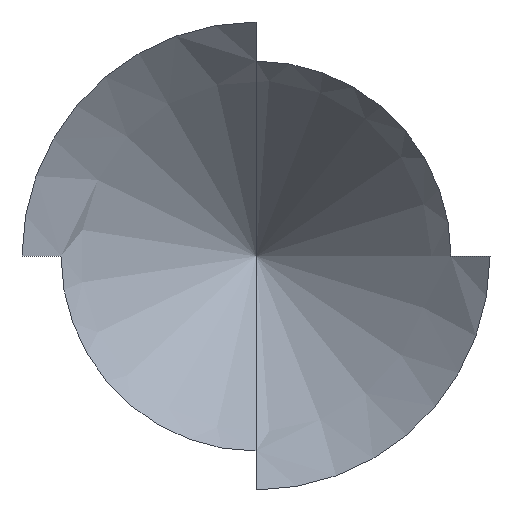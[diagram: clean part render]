
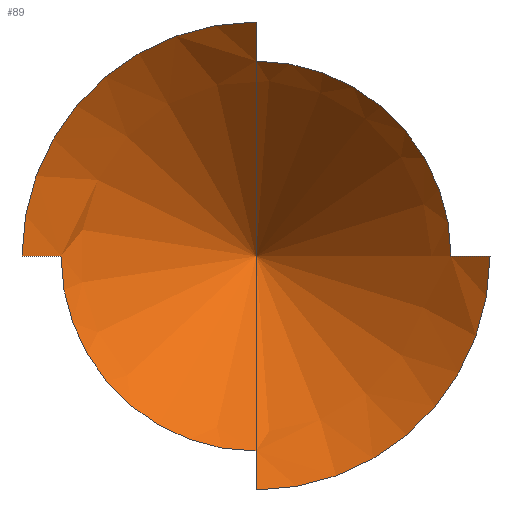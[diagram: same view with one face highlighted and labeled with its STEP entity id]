
A CAD part, top view. The second image highlights one B-rep face of the part: STEP entity #89.
In plain terms, the highlighted conical face has half-angle 45 degrees and reference radius 10 mm.
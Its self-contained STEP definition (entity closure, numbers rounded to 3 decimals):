
#2=CARTESIAN_POINT('',(0.,0.,10.));
#3=CARTESIAN_POINT('',(0.,0.,12.));
#4=CARTESIAN_POINT('',(10.,0.,10.));
#5=CARTESIAN_POINT('',(0.,10.,10.));
#6=CARTESIAN_POINT('',(0.,12.,12.));
#7=CARTESIAN_POINT('',(-12.,0.,12.));
#8=CARTESIAN_POINT('',(-10.,0.,10.));
#9=CARTESIAN_POINT('',(0.,-10.,10.));
#10=CARTESIAN_POINT('',(0.,-12.,12.));
#11=CARTESIAN_POINT('',(12.,0.,12.));
#20=DIRECTION('',(0.,0.,1.));
#21=DIRECTION('',(1.,0.,0.));
#22=AXIS2_PLACEMENT_3D('',#2,#20,#21);
#23=AXIS2_PLACEMENT_3D('',#3,#20,#21);
#24=DIRECTION('',(0.,2.,2.));
#25=VECTOR('',#24,1.);
#26=DIRECTION('',(2.,0.,-2.));
#27=VECTOR('',#26,1.);
#28=DIRECTION('',(0.,-2.,2.));
#29=VECTOR('',#28,1.);
#30=DIRECTION('',(-2.,0.,-2.));
#31=VECTOR('',#30,1.);
#40=VERTEX_POINT('',#4);
#41=VERTEX_POINT('',#5);
#42=VERTEX_POINT('',#6);
#43=VERTEX_POINT('',#7);
#44=VERTEX_POINT('',#8);
#45=VERTEX_POINT('',#9);
#46=VERTEX_POINT('',#10);
#47=VERTEX_POINT('',#11);
#50=CIRCLE('',#22,10.);
#51=CIRCLE('',#23,12.);
#52=LINE('',#5,#25);
#53=LINE('',#7,#27);
#54=LINE('',#9,#29);
#55=LINE('',#11,#31);
#120=TRIMMED_CURVE('',#50,(PARAMETER_VALUE(0.)),(PARAMETER_VALUE(1.571)),.T.,.PARAMETER.);
#121=CARTESIAN_POINT('',(6.282,10.));
#122=DIRECTION('',(-1.,0.));
#123=VECTOR('',#122,1.569);
#124=LINE('',#121,#123);
#125=TRIMMED_CURVE('',#124,(PARAMETER_VALUE(0.)),(PARAMETER_VALUE(1.)),.T.,.PARAMETER.);
#126=(GEOMETRIC_REPRESENTATION_CONTEXT(2) PARAMETRIC_REPRESENTATION_CONTEXT() REPRESENTATION_CONTEXT('conical cap parameters','2D'));
#127=DEFINITIONAL_REPRESENTATION('',(#125),#126);
#128=PCURVE('',#86,#127);
#129=(BOUNDED_CURVE() CURVE() GEOMETRIC_REPRESENTATION_ITEM() REPRESENTATION_ITEM('') SURFACE_CURVE(#120,(#128),.PCURVE_S1.));
#60=EDGE_CURVE('',#40,#41,#129,.T.);
#61=EDGE_CURVE('',#41,#42,#52,.T.);
#62=EDGE_CURVE('',#42,#43,#51,.T.);
#63=EDGE_CURVE('',#43,#44,#53,.T.);
#64=EDGE_CURVE('',#44,#45,#50,.T.);
#65=EDGE_CURVE('',#45,#46,#54,.T.);
#66=EDGE_CURVE('',#46,#47,#51,.T.);
#67=EDGE_CURVE('',#47,#40,#55,.T.);
#70=ORIENTED_EDGE('',*,*,#60,.T.);
#71=ORIENTED_EDGE('',*,*,#61,.T.);
#72=ORIENTED_EDGE('',*,*,#62,.T.);
#73=ORIENTED_EDGE('',*,*,#63,.T.);
#74=ORIENTED_EDGE('',*,*,#64,.T.);
#75=ORIENTED_EDGE('',*,*,#65,.T.);
#76=ORIENTED_EDGE('',*,*,#66,.T.);
#77=ORIENTED_EDGE('',*,*,#67,.T.);
#82=EDGE_LOOP('',(#70,#71,#72,#73,#74,#75,#76,#77));
#84=FACE_OUTER_BOUND('',#82,.T.);
#86=CONICAL_SURFACE('',#22,10.,0.785);
#89=ADVANCED_FACE('',(#84),#86,.F.);
